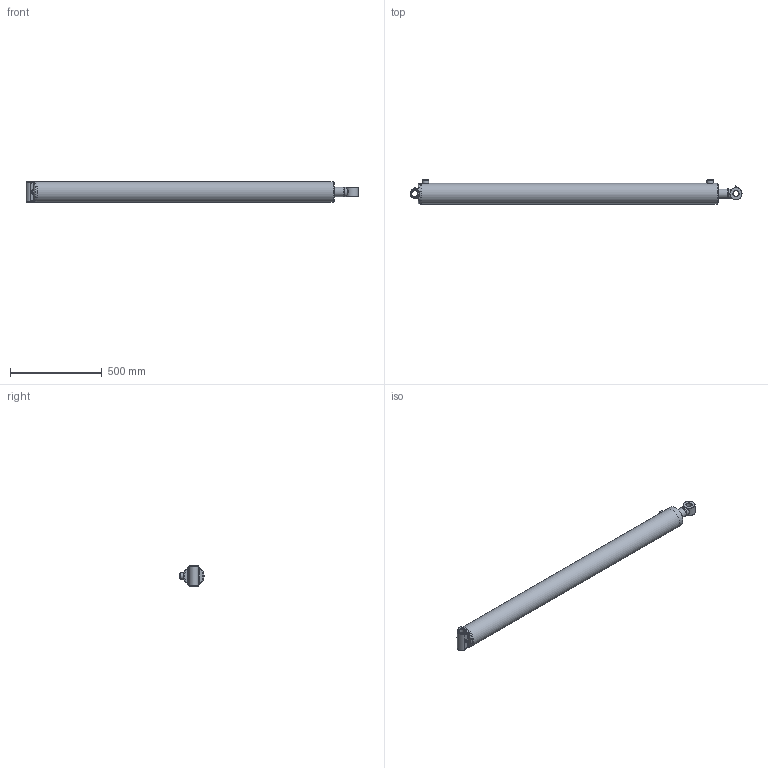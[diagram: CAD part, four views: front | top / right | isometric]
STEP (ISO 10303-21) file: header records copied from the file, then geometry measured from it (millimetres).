
FILE_DESCRIPTION(/* description */ ('Ø4.00 X 60.00 DA'),/* implementation_level */ '2;1');
FILE_NAME(/* name */ 'D:\Temp\1EC677A6FD3990C\sye3kyoe.o5o\Temp\jyelijen..stp',/* time_stamp */ '2020-09-18T16:05:11+00:00',/* author */ (''),/* organization */ ('PRINCE MANUFACTURING'),/* preprocessor_version */ 'ST-DEVELOPER v18.1',/* originating_system */ 'Autodesk Inventor 2021',/* authorisation */ '');
FILE_SCHEMA (('AUTOMOTIVE_DESIGN { 1 0 10303 214 3 1 1 }'));
Length unit declared in the file: inch
Products named in the file (21): PC4060020A00-690XTXS; 0619-XTSG00-600; 0519-T-63620; 161900225; 200015706; 06Weld1_C360; 0719-P-125; 220000212; 0819-G-200; 230025106; 230025006; 240000026; 240061342; 240000342; 0211-AXS40-690X; 0111A-JAW4-65937; 210600511; 02Weld_C360; 240020009; 250014200; 270010020
Assembly tree (22 placements, depth 3):
  PC4060020A00-690XTXS
    0619-XTSG00-600
      0519-T-63620
      161900225
      200015706  x2
      06Weld1_C360
    0719-P-125
    220000212
    0819-G-200
    230025106
    230025006
    240000026
    240061342
    240000342
    0211-AXS40-690X
      0111A-JAW4-65937
      210600511
      02Weld_C360
    240020009
    250014200
    270010020  x2
Bounding box: 1810.67 x 132.19 x 114.3 mm (x, y, z)
Volume: 7295639.6 mm3; surface area: 1584925.2 mm2
Topology: 26 solids, 26 shells, 499 faces, 1415 edges, 978 vertices
Faces by surface type: plane 139, bspline 126, torus 90, cylinder 80, cone 62, sphere 2
Full cylindrical faces by diameter (mm): 1.524 x2, 5.359 x2, 6.35 x2, 12.7 x2, 20.269 x2, 29.464 x1, 31.699 x1, 31.826 x1, 32.131 x2, 34.315 x1, 34.925 x2, 35.052 x2, 50.8 x1, 50.876 x2, 51.994 x2, 52.832 x1, 53.188 x1, 57.963 x1, 59.157 x1, 60.35 x1, 61.976 x2, 63.5 x2, 73.152 x1, 82.55 x1, 92.177 x2, 92.913 x2, 96.52 x1, 98.031 x2, 98.273 x4, 100.986 x2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
Entity records: 32916 total; most frequent: CARTESIAN_POINT 19556, ORIENTED_EDGE 2656, DIRECTION 2459, EDGE_CURVE 1328, AXIS2_PLACEMENT_3D 1059, VERTEX_POINT 925, CIRCLE 657, EDGE_LOOP 539
